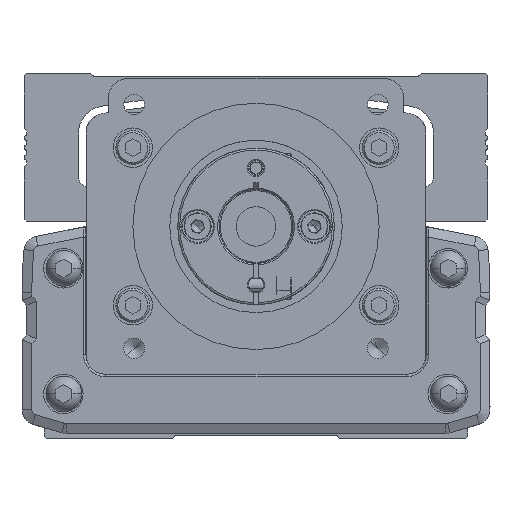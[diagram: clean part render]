
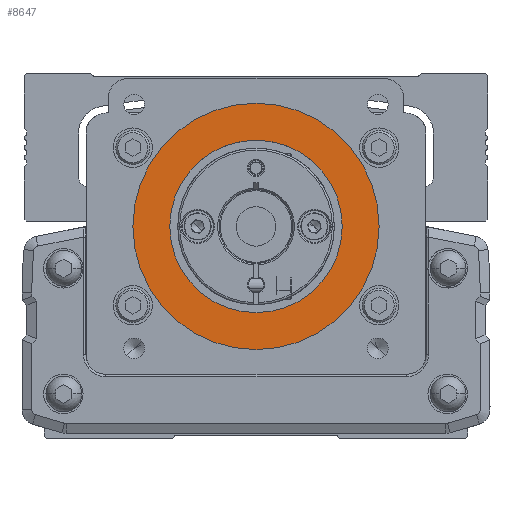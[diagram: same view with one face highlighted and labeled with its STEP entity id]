
A CAD part, front view. The second image highlights one B-rep face of the part: STEP entity #8647.
In plain terms, the highlighted planar face has unit normal (0, -1, 0).
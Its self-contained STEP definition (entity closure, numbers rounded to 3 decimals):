
#8647=ADVANCED_FACE('',(#17773,#17774),#17775,.T.);
#17773=FACE_BOUND('',#29048,.T.);
#17774=FACE_OUTER_BOUND('',#29049,.T.);
#17775=PLANE('',#29050);
#29048=EDGE_LOOP('',(#54416,#54417));
#29049=EDGE_LOOP('',(#54418,#54419));
#29050=AXIS2_PLACEMENT_3D('',#54420,#54421,#54422);
#54416=ORIENTED_EDGE('',*,*,#61245,.T.);
#54417=ORIENTED_EDGE('',*,*,#63287,.T.);
#54418=ORIENTED_EDGE('',*,*,#58579,.F.);
#54419=ORIENTED_EDGE('',*,*,#67632,.F.);
#54420=CARTESIAN_POINT('',(0.,-10.778,0.));
#54421=DIRECTION('',(0.,-1.0,0.));
#54422=DIRECTION('',(1.0,0.,0.));
#58579=EDGE_CURVE('',#70004,#70007,#70008,.T.);
#61245=EDGE_CURVE('',#74596,#74594,#74597,.T.);
#63287=EDGE_CURVE('',#74594,#74596,#77664,.T.);
#67632=EDGE_CURVE('',#70007,#70004,#83059,.T.);
#70004=VERTEX_POINT('',#86296);
#70007=VERTEX_POINT('',#86300);
#70008=CIRCLE('',#86301,25.0);
#74594=VERTEX_POINT('',#92960);
#74596=VERTEX_POINT('',#92963);
#74597=CIRCLE('',#92964,17.5);
#77664=CIRCLE('',#97350,17.5);
#83059=CIRCLE('',#105332,25.0);
#86296=CARTESIAN_POINT('',(25.,-10.778,0.));
#86300=CARTESIAN_POINT('',(-25.,-10.778,0.));
#86301=AXIS2_PLACEMENT_3D('',#107432,#107433,#107434);
#92960=CARTESIAN_POINT('',(-17.5,-10.778,0.));
#92963=CARTESIAN_POINT('',(17.5,-10.778,0.));
#92964=AXIS2_PLACEMENT_3D('',#110961,#110962,#110963);
#97350=AXIS2_PLACEMENT_3D('',#113670,#113671,#113672);
#105332=AXIS2_PLACEMENT_3D('',#118543,#118544,#118545);
#107432=CARTESIAN_POINT('',(0.,-10.778,0.));
#107433=DIRECTION('',(0.,1.0,0.));
#107434=DIRECTION('',(1.0,0.,0.));
#110961=CARTESIAN_POINT('',(0.,-10.778,0.));
#110962=DIRECTION('',(0.,1.0,0.));
#110963=DIRECTION('',(-1.0,0.,0.));
#113670=CARTESIAN_POINT('',(0.,-10.778,0.));
#113671=DIRECTION('',(0.,1.0,0.));
#113672=DIRECTION('',(-1.0,0.,0.));
#118543=CARTESIAN_POINT('',(0.,-10.778,0.));
#118544=DIRECTION('',(0.,1.0,0.));
#118545=DIRECTION('',(1.0,0.,0.));
